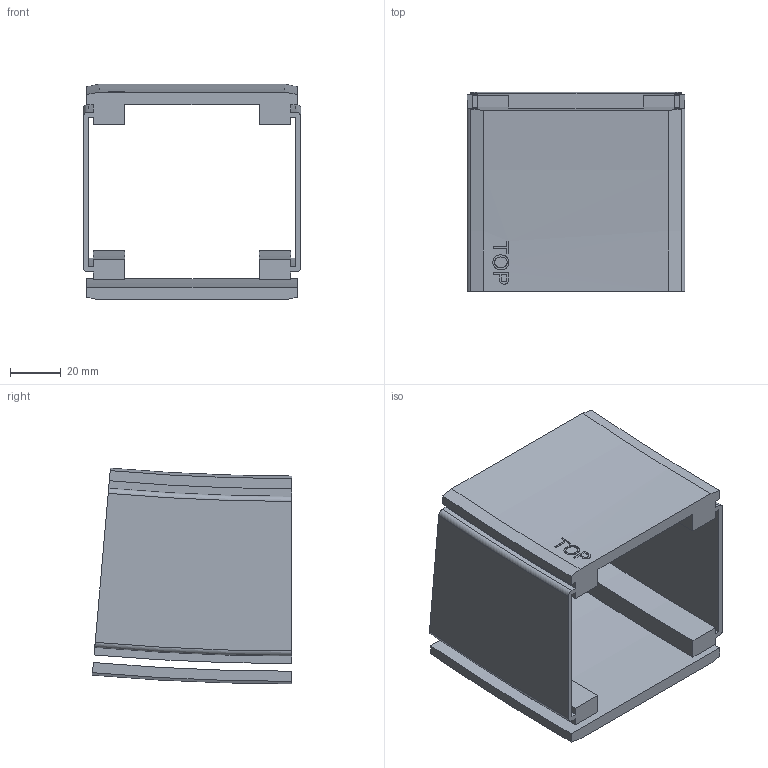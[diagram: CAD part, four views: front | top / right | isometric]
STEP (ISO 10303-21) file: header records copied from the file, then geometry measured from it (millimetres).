
FILE_DESCRIPTION(/* description */ ('VERTIKALKURVA S530 R860'),/* implementation_level */ '2;1');
FILE_NAME(/* name */ '530-5695+830-2000-UPP-01.stp',/* time_stamp */ '2022-09-21T07:14:57+02:00',/* author */ ('Mathias.Dore'),/* organization */ ('CARRYLINE'),/* preprocessor_version */ 'ST-DEVELOPER v19.2',/* originating_system */ 'Autodesk Inventor 2023',/* authorisation */ '');
FILE_SCHEMA (('AUTOMOTIVE_DESIGN { 1 0 10303 214 3 1 1 }'));
Length unit declared in the file: millimetre
Products named in the file (1): 530-5695+830-2000-UPP-01
Bounding box: 86 x 78.66 x 85.12 mm (x, y, z)
Volume: 111519.6 mm3; surface area: 57131.3 mm2
Topology: 2 solids, 2 shells, 87 faces, 234 edges, 156 vertices
Faces by surface type: plane 40, cylinder 25, bspline 14, cone 4, torus 4
Entity records: 7345 total; most frequent: CARTESIAN_POINT 5146, ORIENTED_EDGE 468, DIRECTION 408, EDGE_CURVE 234, VERTEX_POINT 156, AXIS2_PLACEMENT_3D 141, LINE 126, VECTOR 126
